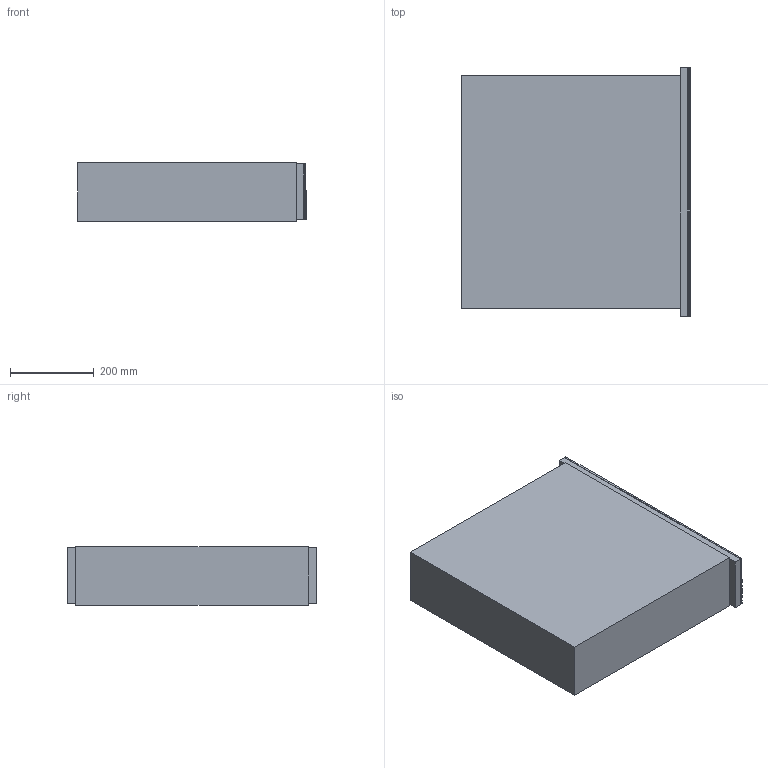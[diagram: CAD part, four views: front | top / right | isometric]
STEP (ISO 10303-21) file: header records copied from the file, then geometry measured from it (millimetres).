
FILE_DESCRIPTION(/* description */ (''),/* implementation_level */ '2;1');
FILE_NAME(/* name */ 'esw6114_clst',/* time_stamp */ '2013-03-10T17:50:58+01:00',/* author */ (''),/* organization */ (''),/* preprocessor_version */ 'ST-DEVELOPER v10',/* originating_system */ '',/* authorisation */ '');
FILE_SCHEMA (('AUTOMOTIVE_DESIGN_CC2'));
Length unit declared in the file: millimetre
Products named in the file (1): 1
Bounding box: 547.77 x 594.81 x 141.12 mm (x, y, z)
Volume: 43105641.3 mm3; surface area: 1328496.9 mm2
Topology: 4 solids, 4 shells, 28 faces, 56 edges, 36 vertices
Faces by surface type: bspline 28
Entity records: 757 total; most frequent: CARTESIAN_POINT 337, ORIENTED_EDGE 112, EDGE_CURVE 56, B_SPLINE_CURVE_WITH_KNOTS 48, VERTEX_POINT 36, ADVANCED_FACE 28, FACE_OUTER_BOUND 28, EDGE_LOOP 28
